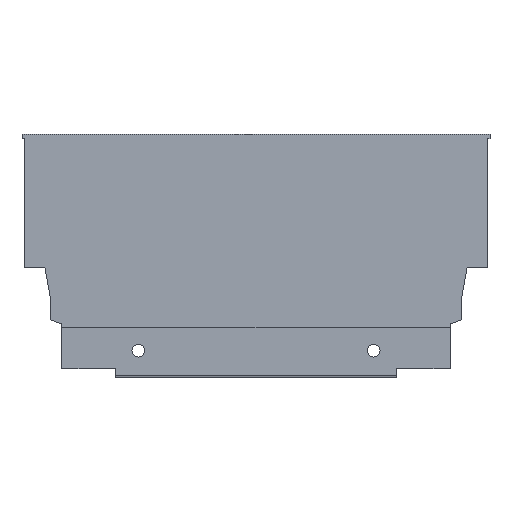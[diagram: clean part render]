
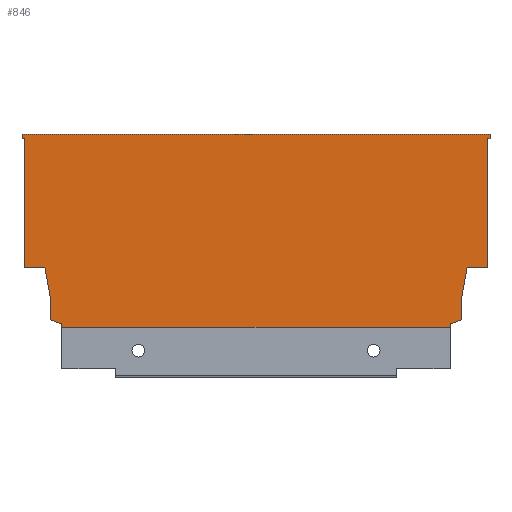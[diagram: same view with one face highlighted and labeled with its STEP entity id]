
A CAD part, top view. The second image highlights one B-rep face of the part: STEP entity #846.
In plain terms, the highlighted planar face has unit normal (0, 0, 1).
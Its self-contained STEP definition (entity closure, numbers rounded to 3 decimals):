
#7 = CARTESIAN_POINT ( 'NONE',  ( -13.004, 1.146, 7.5 ) ) ;
#8 = CARTESIAN_POINT ( 'NONE',  ( -154.1, 2.64, 7.5 ) ) ;
#9 = CARTESIAN_POINT ( 'NONE',  ( -13.004, 0., 7.5 ) ) ;
#12 = CARTESIAN_POINT ( 'NONE',  ( -163., 21.2, 7.5 ) ) ;
#14 = CARTESIAN_POINT ( 'NONE',  ( 1., 68., 7.5 ) ) ;
#19 = CARTESIAN_POINT ( 'NONE',  ( -7.06, 21.2, 7.5 ) ) ;
#20 = CARTESIAN_POINT ( 'NONE',  ( 0., 66.5, 7.5 ) ) ;
#101 = VERTEX_POINT ( 'NONE', #20 ) ;
#102 = VERTEX_POINT ( 'NONE', #19 ) ;
#107 = VERTEX_POINT ( 'NONE', #14 ) ;
#109 = VERTEX_POINT ( 'NONE', #12 ) ;
#112 = VERTEX_POINT ( 'NONE', #9 ) ;
#113 = VERTEX_POINT ( 'NONE', #8 ) ;
#114 = VERTEX_POINT ( 'NONE', #7 ) ;
#120 = VERTEX_POINT ( 'NONE', #919 ) ;
#121 = VERTEX_POINT ( 'NONE', #918 ) ;
#128 = VERTEX_POINT ( 'NONE', #911 ) ;
#131 = VERTEX_POINT ( 'NONE', #908 ) ;
#133 = VERTEX_POINT ( 'NONE', #906 ) ;
#134 = VERTEX_POINT ( 'NONE', #905 ) ;
#139 = VERTEX_POINT ( 'NONE', #900 ) ;
#141 = VERTEX_POINT ( 'NONE', #898 ) ;
#143 = VERTEX_POINT ( 'NONE', #896 ) ;
#146 = VERTEX_POINT ( 'NONE', #893 ) ;
#149 = VERTEX_POINT ( 'NONE', #169 ) ;
#157 = CARTESIAN_POINT ( 'NONE',  ( -163., 0., 7.5 ) ) ;
#162 = PLANE ( 'NONE',  #1413 ) ;
#169 = CARTESIAN_POINT ( 'NONE',  ( -164., 68., 7.5 ) ) ;
#364 = VECTOR ( 'NONE', #1187, 1000. ) ;
#367 = VECTOR ( 'NONE', #1183, 1000. ) ;
#368 = LINE ( 'NONE', #1182, #367 ) ;
#371 = VECTOR ( 'NONE', #1179, 1000. ) ;
#372 = LINE ( 'NONE', #1178, #371 ) ;
#375 = LINE ( 'NONE', #1180, #364 ) ;
#376 = VECTOR ( 'NONE', #1175, 1000. ) ;
#380 = VECTOR ( 'NONE', #1171, 1000. ) ;
#381 = LINE ( 'NONE', #1172, #376 ) ;
#384 = VECTOR ( 'NONE', #1167, 1000. ) ;
#387 = LINE ( 'NONE', #1168, #380 ) ;
#388 = VECTOR ( 'NONE', #1163, 1000. ) ;
#390 = VECTOR ( 'NONE', #1161, 1000. ) ;
#391 = VECTOR ( 'NONE', #1159, 1000. ) ;
#392 = LINE ( 'NONE', #1158, #391 ) ;
#393 = VECTOR ( 'NONE', #1157, 1000. ) ;
#394 = LINE ( 'NONE', #1156, #393 ) ;
#397 = LINE ( 'NONE', #1162, #384 ) ;
#398 = VECTOR ( 'NONE', #1153, 1000. ) ;
#399 = LINE ( 'NONE', #1160, #388 ) ;
#400 = VECTOR ( 'NONE', #1151, 1000. ) ;
#402 = LINE ( 'NONE', #1142, #400 ) ;
#403 = LINE ( 'NONE', #1150, #398 ) ;
#404 = LINE ( 'NONE', #1152, #390 ) ;
#405 = VECTOR ( 'NONE', #1144, 1000. ) ;
#406 = LINE ( 'NONE', #1143, #405 ) ;
#407 = LINE ( 'NONE', #1148, #410 ) ;
#410 = VECTOR ( 'NONE', #1149, 1000. ) ;
#411 = VECTOR ( 'NONE', #1140, 1000. ) ;
#414 = VECTOR ( 'NONE', #1136, 1000. ) ;
#416 = LINE ( 'NONE', #1127, #414 ) ;
#418 = LINE ( 'NONE', #1135, #411 ) ;
#420 = LINE ( 'NONE', #1133, #424 ) ;
#424 = VECTOR ( 'NONE', #1134, 1000. ) ;
#439 = LINE ( 'NONE', #1093, #447 ) ;
#447 = VECTOR ( 'NONE', #1103, 1000. ) ;
#506 = FACE_OUTER_BOUND ( 'NONE', #616, .T. ) ;
#616 = EDGE_LOOP ( 'NONE', ( #721, #720, #719, #718, #717, #716, #715, #714, #713, #712, #711, #710, #709, #708, #707, #706, #705, #704 ) ) ;
#704 = ORIENTED_EDGE ( 'NONE', *, *, #1495, .F. ) ;
#705 = ORIENTED_EDGE ( 'NONE', *, *, #1493, .F. ) ;
#706 = ORIENTED_EDGE ( 'NONE', *, *, #1392, .F. ) ;
#707 = ORIENTED_EDGE ( 'NONE', *, *, #1491, .F. ) ;
#708 = ORIENTED_EDGE ( 'NONE', *, *, #1489, .F. ) ;
#709 = ORIENTED_EDGE ( 'NONE', *, *, #1487, .F. ) ;
#710 = ORIENTED_EDGE ( 'NONE', *, *, #1482, .F. ) ;
#711 = ORIENTED_EDGE ( 'NONE', *, *, #1480, .F. ) ;
#712 = ORIENTED_EDGE ( 'NONE', *, *, #1470, .T. ) ;
#713 = ORIENTED_EDGE ( 'NONE', *, *, #1478, .F. ) ;
#714 = ORIENTED_EDGE ( 'NONE', *, *, #1485, .F. ) ;
#715 = ORIENTED_EDGE ( 'NONE', *, *, #1476, .F. ) ;
#716 = ORIENTED_EDGE ( 'NONE', *, *, #1477, .F. ) ;
#717 = ORIENTED_EDGE ( 'NONE', *, *, #1472, .F. ) ;
#718 = ORIENTED_EDGE ( 'NONE', *, *, #1483, .T. ) ;
#719 = ORIENTED_EDGE ( 'NONE', *, *, #1469, .T. ) ;
#720 = ORIENTED_EDGE ( 'NONE', *, *, #1481, .F. ) ;
#721 = ORIENTED_EDGE ( 'NONE', *, *, #1474, .F. ) ;
#846 = ADVANCED_FACE ( 'NONE', ( #506 ), #162, .T. ) ;
#893 = CARTESIAN_POINT ( 'NONE',  ( -8.9, 10.765, 7.5 ) ) ;
#896 = CARTESIAN_POINT ( 'NONE',  ( -154.1, 10.765, 7.5 ) ) ;
#898 = CARTESIAN_POINT ( 'NONE',  ( -155.94, 21.2, 7.5 ) ) ;
#900 = CARTESIAN_POINT ( 'NONE',  ( -149.996, 0., 7.5 ) ) ;
#905 = CARTESIAN_POINT ( 'NONE',  ( -8.9, 2.64, 7.5 ) ) ;
#906 = CARTESIAN_POINT ( 'NONE',  ( -149.996, 1.146, 7.5 ) ) ;
#908 = CARTESIAN_POINT ( 'NONE',  ( 0., 21.2, 7.5 ) ) ;
#911 = CARTESIAN_POINT ( 'NONE',  ( 1., 66.5, 7.5 ) ) ;
#918 = CARTESIAN_POINT ( 'NONE',  ( -164., 66.5, 7.5 ) ) ;
#919 = CARTESIAN_POINT ( 'NONE',  ( -163., 66.5, 7.5 ) ) ;
#1093 = CARTESIAN_POINT ( 'NONE',  ( 0., 0., 7.5 ) ) ;
#1103 = DIRECTION ( 'NONE',  ( 0., -1., 0. ) ) ;
#1127 = CARTESIAN_POINT ( 'NONE',  ( -163., 0., 7.5 ) ) ;
#1133 = CARTESIAN_POINT ( 'NONE',  ( -164., 66.5, 7.5 ) ) ;
#1134 = DIRECTION ( 'NONE',  ( 1., 0., 0. ) ) ;
#1135 = CARTESIAN_POINT ( 'NONE',  ( -168., 21.2, 7.5 ) ) ;
#1136 = DIRECTION ( 'NONE',  ( 1., 0., 0. ) ) ;
#1140 = DIRECTION ( 'NONE',  ( -1., 0., 0. ) ) ;
#1142 = CARTESIAN_POINT ( 'NONE',  ( -155.94, 21.2, 7.5 ) ) ;
#1143 = CARTESIAN_POINT ( 'NONE',  ( -163., 68., 7.5 ) ) ;
#1144 = DIRECTION ( 'NONE',  ( 1., 0., 0. ) ) ;
#1148 = CARTESIAN_POINT ( 'NONE',  ( -154.1, 10.765, 7.5 ) ) ;
#1149 = DIRECTION ( 'NONE',  ( 0., 1., 0. ) ) ;
#1150 = CARTESIAN_POINT ( 'NONE',  ( -149.996, 1.146, 7.5 ) ) ;
#1151 = DIRECTION ( 'NONE',  ( -0.174, 0.985, 0. ) ) ;
#1152 = CARTESIAN_POINT ( 'NONE',  ( -8.9, 2.64, 7.5 ) ) ;
#1153 = DIRECTION ( 'NONE',  ( 0., 1., 0. ) ) ;
#1156 = CARTESIAN_POINT ( 'NONE',  ( -13.004, 1.146, 7.5 ) ) ;
#1157 = DIRECTION ( 'NONE',  ( 0., -1., 0. ) ) ;
#1158 = CARTESIAN_POINT ( 'NONE',  ( -164., 66.5, 7.5 ) ) ;
#1159 = DIRECTION ( 'NONE',  ( 0., 1., 0. ) ) ;
#1160 = CARTESIAN_POINT ( 'NONE',  ( -163., 0., 7.5 ) ) ;
#1161 = DIRECTION ( 'NONE',  ( -0.94, -0.342, 0. ) ) ;
#1162 = CARTESIAN_POINT ( 'NONE',  ( -154.1, 2.64, 7.5 ) ) ;
#1163 = DIRECTION ( 'NONE',  ( 0., -1., 0. ) ) ;
#1167 = DIRECTION ( 'NONE',  ( -0.94, 0.342, 0. ) ) ;
#1168 = CARTESIAN_POINT ( 'NONE',  ( -8.9, 10.765, 7.5 ) ) ;
#1171 = DIRECTION ( 'NONE',  ( 0., -1., 0. ) ) ;
#1172 = CARTESIAN_POINT ( 'NONE',  ( -7.06, 21.2, 7.5 ) ) ;
#1175 = DIRECTION ( 'NONE',  ( -0.174, -0.985, 0. ) ) ;
#1178 = CARTESIAN_POINT ( 'NONE',  ( 0., 21.2, 7.5 ) ) ;
#1179 = DIRECTION ( 'NONE',  ( -1., 0., 0. ) ) ;
#1180 = CARTESIAN_POINT ( 'NONE',  ( 1., 68., 7.5 ) ) ;
#1182 = CARTESIAN_POINT ( 'NONE',  ( 1., 66.5, 7.5 ) ) ;
#1183 = DIRECTION ( 'NONE',  ( -1., 0., 0. ) ) ;
#1187 = DIRECTION ( 'NONE',  ( 0., -1., 0. ) ) ;
#1392 = EDGE_CURVE ( 'NONE', #101, #131, #439, .T. ) ;
#1413 = AXIS2_PLACEMENT_3D ( 'NONE', #157, #1592, #1591 ) ;
#1469 = EDGE_CURVE ( 'NONE', #121, #120, #420, .T. ) ;
#1470 = EDGE_CURVE ( 'NONE', #139, #112, #416, .T. ) ;
#1472 = EDGE_CURVE ( 'NONE', #141, #109, #418, .T. ) ;
#1474 = EDGE_CURVE ( 'NONE', #149, #107, #406, .T. ) ;
#1476 = EDGE_CURVE ( 'NONE', #113, #143, #407, .T. ) ;
#1477 = EDGE_CURVE ( 'NONE', #143, #141, #402, .T. ) ;
#1478 = EDGE_CURVE ( 'NONE', #139, #133, #403, .T. ) ;
#1480 = EDGE_CURVE ( 'NONE', #114, #112, #394, .T. ) ;
#1481 = EDGE_CURVE ( 'NONE', #121, #149, #392, .T. ) ;
#1482 = EDGE_CURVE ( 'NONE', #134, #114, #404, .T. ) ;
#1483 = EDGE_CURVE ( 'NONE', #120, #109, #399, .T. ) ;
#1485 = EDGE_CURVE ( 'NONE', #133, #113, #397, .T. ) ;
#1487 = EDGE_CURVE ( 'NONE', #146, #134, #387, .T. ) ;
#1489 = EDGE_CURVE ( 'NONE', #102, #146, #381, .T. ) ;
#1491 = EDGE_CURVE ( 'NONE', #131, #102, #372, .T. ) ;
#1493 = EDGE_CURVE ( 'NONE', #128, #101, #368, .T. ) ;
#1495 = EDGE_CURVE ( 'NONE', #107, #128, #375, .T. ) ;
#1591 = DIRECTION ( 'NONE',  ( 1., 0., 0. ) ) ;
#1592 = DIRECTION ( 'NONE',  ( 0., 0., 1. ) ) ;
